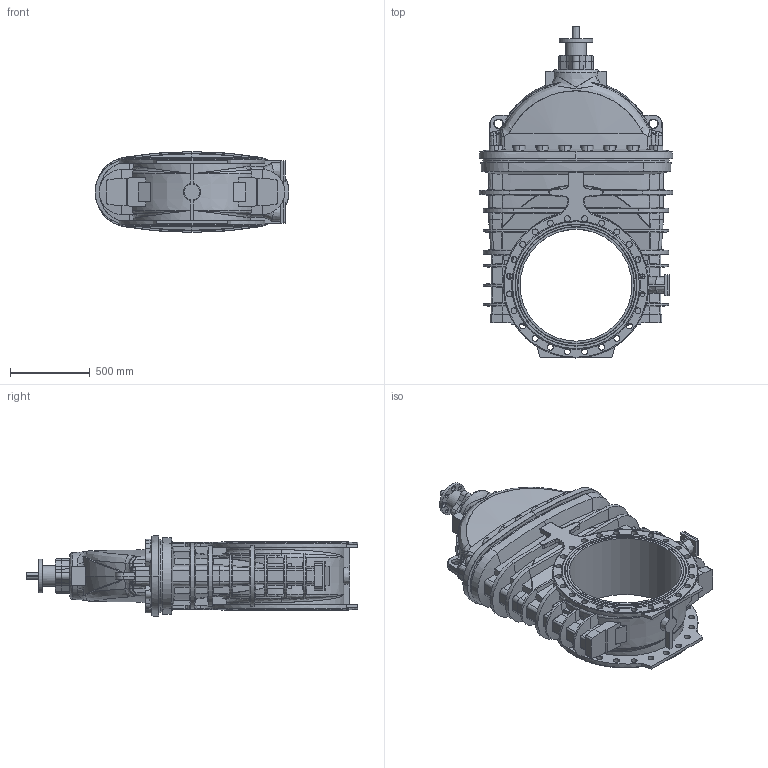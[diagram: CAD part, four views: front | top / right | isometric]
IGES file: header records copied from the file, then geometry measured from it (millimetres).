
Start section: SolidWorks IGES file using analytic representation for surfaces
Global section: file name: \\avksan2\techshare\PBM outline export from Enovia\O_06_30_DN700_X1XXX_AA0.igs; native system: SolidWorks 2012; preprocessor: SolidWorks 2012; author: pbm; date: 191105.085429; units: millimetre
Bounding box: 1212 x 2077 x 506 mm (x, y, z)
Surface area: 8011496.2 mm2 (no closed solid volume)
Topology: 0 solids, 0 shells, 1128 faces, 6566 edges, 6461 vertices
Faces by surface type: bspline 607, revolution 521
